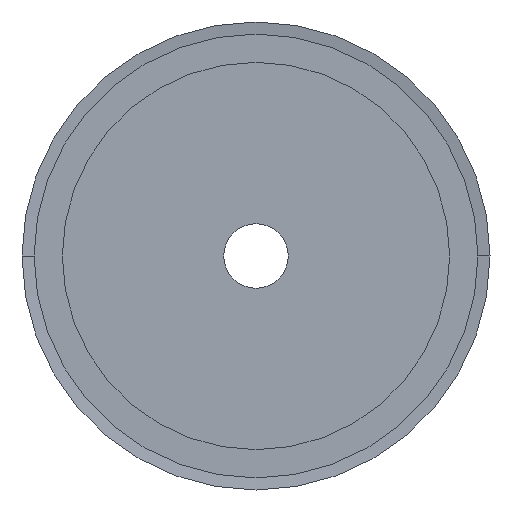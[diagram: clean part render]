
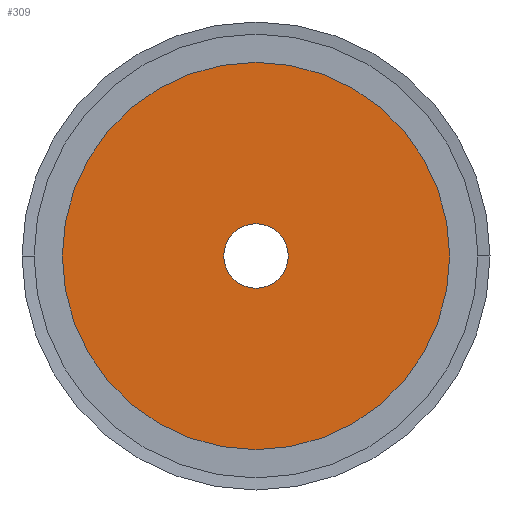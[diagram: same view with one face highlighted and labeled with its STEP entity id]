
A CAD part, left-side view. The second image highlights one B-rep face of the part: STEP entity #309.
In plain terms, the highlighted planar face has unit normal (-1, 0, 0).
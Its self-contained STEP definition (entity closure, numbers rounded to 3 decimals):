
#309 = ADVANCED_FACE( '', ( #785, #786 ), #787, .T. );
#785 = FACE_BOUND( '', #1262, .T. );
#786 = FACE_OUTER_BOUND( '', #1263, .T. );
#787 = PLANE( '', #1264 );
#1262 = EDGE_LOOP( '', ( #3315, #3316 ) );
#1263 = EDGE_LOOP( '', ( #3317, #3318 ) );
#1264 = AXIS2_PLACEMENT_3D( '', #3319, #3320, #3321 );
#3315 = ORIENTED_EDGE( '', *, *, #3361, .T. );
#3316 = ORIENTED_EDGE( '', *, *, #3357, .T. );
#3317 = ORIENTED_EDGE( '', *, *, #3325, .T. );
#3318 = ORIENTED_EDGE( '', *, *, #3997, .T. );
#3319 = CARTESIAN_POINT( '', ( 0., 18., 0. ) );
#3320 = DIRECTION( '', ( -1., 0., 0. ) );
#3321 = DIRECTION( '', ( 0., 1., 0. ) );
#3325 = EDGE_CURVE( '', #3999, #4003, #4005, .T. );
#3357 = EDGE_CURVE( '', #4063, #4060, #4064, .T. );
#3361 = EDGE_CURVE( '', #4060, #4063, #4069, .T. );
#3997 = EDGE_CURVE( '', #4003, #3999, #5121, .T. );
#3999 = VERTEX_POINT( '', #5123 );
#4003 = VERTEX_POINT( '', #5128 );
#4005 = CIRCLE( '', #5131, 36. );
#4060 = VERTEX_POINT( '', #5202 );
#4063 = VERTEX_POINT( '', #5206 );
#4064 = CIRCLE( '', #5207, 6. );
#4069 = CIRCLE( '', #5213, 6. );
#5121 = CIRCLE( '', #6629, 36. );
#5123 = CARTESIAN_POINT( '', ( 0., 36., 0. ) );
#5128 = CARTESIAN_POINT( '', ( 0., -36., 0. ) );
#5131 = AXIS2_PLACEMENT_3D( '', #6635, #6636, #6637 );
#5202 = CARTESIAN_POINT( '', ( 0., 6., 0. ) );
#5206 = CARTESIAN_POINT( '', ( 0., -6., 0. ) );
#5207 = AXIS2_PLACEMENT_3D( '', #6697, #6698, #6699 );
#5213 = AXIS2_PLACEMENT_3D( '', #6707, #6708, #6709 );
#6629 = AXIS2_PLACEMENT_3D( '', #7887, #7888, #7889 );
#6635 = CARTESIAN_POINT( '', ( 0., 0., 0. ) );
#6636 = DIRECTION( '', ( -1., 0., 0. ) );
#6637 = DIRECTION( '', ( 0., 1., 0. ) );
#6697 = CARTESIAN_POINT( '', ( 0., 0., 0. ) );
#6698 = DIRECTION( '', ( 1., 0., 0. ) );
#6699 = DIRECTION( '', ( 0., 1., 0. ) );
#6707 = CARTESIAN_POINT( '', ( 0., 0., 0. ) );
#6708 = DIRECTION( '', ( 1., 0., 0. ) );
#6709 = DIRECTION( '', ( 0., 1., 0. ) );
#7887 = CARTESIAN_POINT( '', ( 0., 0., 0. ) );
#7888 = DIRECTION( '', ( -1., 0., 0. ) );
#7889 = DIRECTION( '', ( 0., 1., 0. ) );
